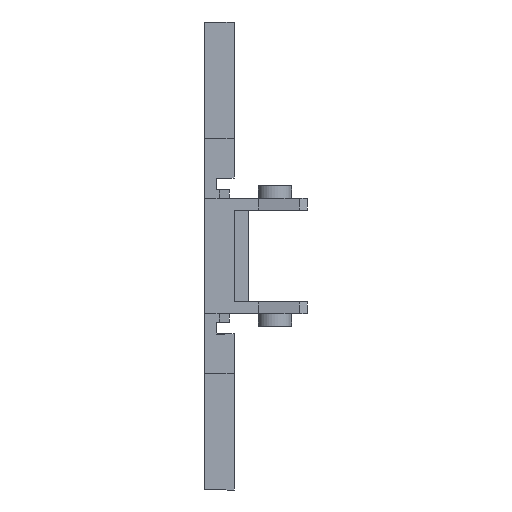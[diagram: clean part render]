
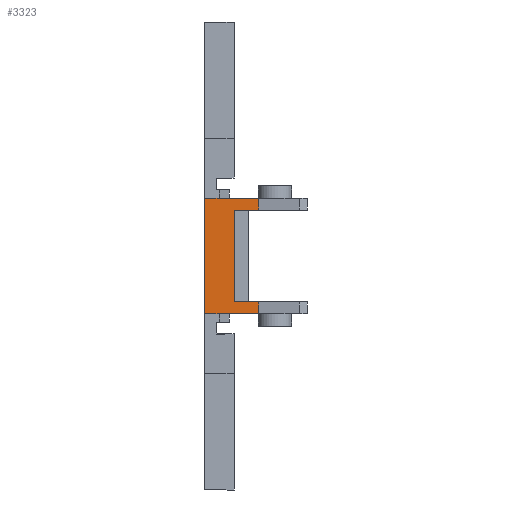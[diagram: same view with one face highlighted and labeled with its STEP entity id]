
A CAD part, front view. The second image highlights one B-rep face of the part: STEP entity #3323.
In plain terms, the highlighted planar face has unit normal (0, -1, 0).
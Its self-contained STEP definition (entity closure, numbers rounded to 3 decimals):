
#43 = EDGE_CURVE ( 'NONE', #2593, #2594, #2977, .T. ) ;
#107 = EDGE_CURVE ( 'NONE', #2594, #2600, #3054, .T. ) ;
#163 = EDGE_CURVE ( 'NONE', #2598, #2599, #3128, .T. ) ;
#186 = AXIS2_PLACEMENT_3D ( 'NONE', #1541, #1547, #1548 ) ;
#296 = EDGE_CURVE ( 'NONE', #2600, #2599, #3304, .T. ) ;
#328 = EDGE_CURVE ( 'NONE', #2596, #2597, #1086, .T. ) ;
#349 = EDGE_CURVE ( 'NONE', #2597, #2598, #1113, .T. ) ;
#353 = EDGE_CURVE ( 'NONE', #2596, #2595, #1119, .T. ) ;
#435 = EDGE_CURVE ( 'NONE', #2593, #2595, #1221, .T. ) ;
#530 = CARTESIAN_POINT ( 'NONE',  ( 1.5, -16.55, -5.9 ) ) ;
#538 = DIRECTION ( 'NONE',  ( 1., 0., 0. ) ) ;
#732 = CARTESIAN_POINT ( 'NONE',  ( 5.523, -16.55, 67.733 ) ) ;
#733 = DIRECTION ( 'NONE',  ( 0., 0., -1. ) ) ;
#777 = CARTESIAN_POINT ( 'NONE',  ( 10.5, -16.55, 5.9 ) ) ;
#778 = DIRECTION ( 'NONE',  ( -1., 0., 0. ) ) ;
#809 = CARTESIAN_POINT ( 'NONE',  ( 0., -16.55, 15.37 ) ) ;
#810 = DIRECTION ( 'NONE',  ( 0., 0., -1. ) ) ;
#816 = CARTESIAN_POINT ( 'NONE',  ( 5.523, -16.55, 67.733 ) ) ;
#817 = DIRECTION ( 'NONE',  ( 0., 0., -1. ) ) ;
#926 = CARTESIAN_POINT ( 'NONE',  ( 10.5, -16.55, 4.7 ) ) ;
#927 = DIRECTION ( 'NONE',  ( 1., 0., 0. ) ) ;
#1053 = VECTOR ( 'NONE', #733, 1000. ) ;
#1086 = LINE ( 'NONE', #777, #1087 ) ;
#1087 = VECTOR ( 'NONE', #778, 1000. ) ;
#1113 = LINE ( 'NONE', #809, #1114 ) ;
#1114 = VECTOR ( 'NONE', #810, 1000. ) ;
#1119 = LINE ( 'NONE', #816, #1120 ) ;
#1120 = VECTOR ( 'NONE', #817, 1000. ) ;
#1221 = LINE ( 'NONE', #926, #1222 ) ;
#1222 = VECTOR ( 'NONE', #927, 1000. ) ;
#1266 = FACE_OUTER_BOUND ( 'NONE', #2786, .T. ) ;
#1426 = CARTESIAN_POINT ( 'NONE',  ( 3., -16.55, 4.7 ) ) ;
#1427 = CARTESIAN_POINT ( 'NONE',  ( 3., -16.55, -4.7 ) ) ;
#1428 = CARTESIAN_POINT ( 'NONE',  ( 5.523, -16.55, 4.7 ) ) ;
#1429 = CARTESIAN_POINT ( 'NONE',  ( 5.523, -16.55, 5.9 ) ) ;
#1430 = CARTESIAN_POINT ( 'NONE',  ( 0., -16.55, 5.9 ) ) ;
#1431 = CARTESIAN_POINT ( 'NONE',  ( 0., -16.55, -5.9 ) ) ;
#1432 = CARTESIAN_POINT ( 'NONE',  ( 5.523, -16.55, -5.9 ) ) ;
#1433 = CARTESIAN_POINT ( 'NONE',  ( 5.523, -16.55, -4.7 ) ) ;
#1538 = PLANE ( 'NONE',  #186 ) ;
#1541 = CARTESIAN_POINT ( 'NONE',  ( 10.5, -16.55, -5.9 ) ) ;
#1547 = DIRECTION ( 'NONE',  ( 0., -1., 0. ) ) ;
#1548 = DIRECTION ( 'NONE',  ( -1., 0., 0. ) ) ;
#1939 = DIRECTION ( 'NONE',  ( 0., 0., -1. ) ) ;
#1943 = CARTESIAN_POINT ( 'NONE',  ( 10.5, -16.55, -4.7 ) ) ;
#1969 = CARTESIAN_POINT ( 'NONE',  ( 3., -16.55, -5.9 ) ) ;
#2103 = DIRECTION ( 'NONE',  ( 1., 0., 0. ) ) ;
#2593 = VERTEX_POINT ( 'NONE', #1426 ) ;
#2594 = VERTEX_POINT ( 'NONE', #1427 ) ;
#2595 = VERTEX_POINT ( 'NONE', #1428 ) ;
#2596 = VERTEX_POINT ( 'NONE', #1429 ) ;
#2597 = VERTEX_POINT ( 'NONE', #1430 ) ;
#2598 = VERTEX_POINT ( 'NONE', #1431 ) ;
#2599 = VERTEX_POINT ( 'NONE', #1432 ) ;
#2600 = VERTEX_POINT ( 'NONE', #1433 ) ;
#2675 = ORIENTED_EDGE ( 'NONE', *, *, #107, .F. ) ;
#2676 = ORIENTED_EDGE ( 'NONE', *, *, #296, .F. ) ;
#2677 = ORIENTED_EDGE ( 'NONE', *, *, #163, .T. ) ;
#2678 = ORIENTED_EDGE ( 'NONE', *, *, #349, .T. ) ;
#2683 = ORIENTED_EDGE ( 'NONE', *, *, #435, .T. ) ;
#2684 = ORIENTED_EDGE ( 'NONE', *, *, #43, .F. ) ;
#2687 = ORIENTED_EDGE ( 'NONE', *, *, #328, .T. ) ;
#2688 = ORIENTED_EDGE ( 'NONE', *, *, #353, .F. ) ;
#2786 = EDGE_LOOP ( 'NONE', ( #2684, #2683, #2688, #2687, #2678, #2677, #2676, #2675 ) ) ;
#2977 = LINE ( 'NONE', #1969, #2983 ) ;
#2983 = VECTOR ( 'NONE', #1939, 1000. ) ;
#3054 = LINE ( 'NONE', #1943, #3055 ) ;
#3055 = VECTOR ( 'NONE', #2103, 1000. ) ;
#3123 = VECTOR ( 'NONE', #538, 1000. ) ;
#3128 = LINE ( 'NONE', #530, #3123 ) ;
#3304 = LINE ( 'NONE', #732, #1053 ) ;
#3323 = ADVANCED_FACE ( 'NONE', ( #1266 ), #1538, .T. ) ;
